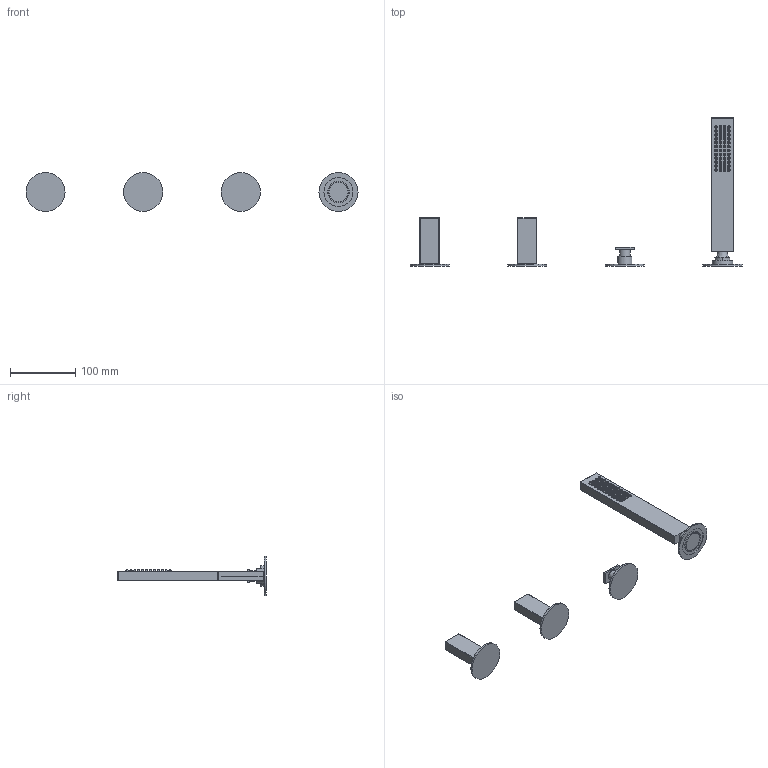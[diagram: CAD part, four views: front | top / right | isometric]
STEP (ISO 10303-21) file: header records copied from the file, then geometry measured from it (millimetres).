
FILE_DESCRIPTION((''),'2;1');
FILE_NAME('53028A_SW0002','2020-09-17T11:15:35',('carloff'),(''),'CREO PARAMETRIC BY PTC INC, 2018100','CREO PARAMETRIC BY PTC INC, 2018100','');
FILE_SCHEMA(('CONFIG_CONTROL_DESIGN'));
Length unit declared in the file: millimetre
Products named in the file (1): 53028A_SW0002
Bounding box: 510 x 227.5 x 60 mm (x, y, z)
Volume: 215113.3 mm3; surface area: 70039.6 mm2
Topology: 4 solids, 5 shells, 924 faces, 2678 edges, 1686 vertices
Faces by surface type: plane 404, torus 214, cylinder 164, cone 126, sphere 12, bspline 4
Entity records: 31956 total; most frequent: CARTESIAN_POINT 7498, ORIENTED_EDGE 5348, DIRECTION 5066, EDGE_CURVE 2674, AXIS2_PLACEMENT_3D 1958, VERTEX_POINT 1686, VECTOR 1150, LINE 1150
